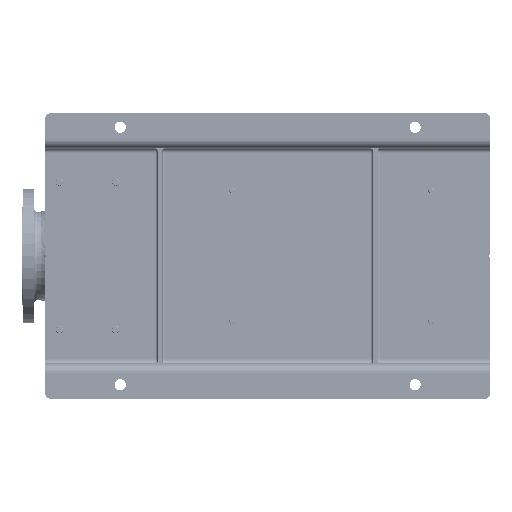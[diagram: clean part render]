
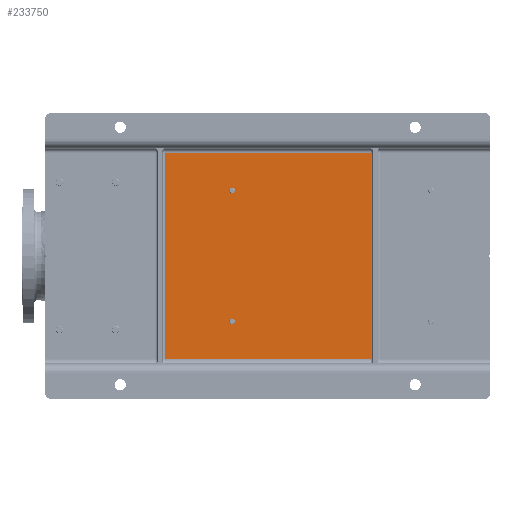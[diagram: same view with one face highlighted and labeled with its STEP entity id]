
A CAD part, front view. The second image highlights one B-rep face of the part: STEP entity #233750.
In plain terms, the highlighted planar face has unit normal (0, -1, 0).
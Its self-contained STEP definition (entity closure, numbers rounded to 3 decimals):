
#2972 = ORIENTED_EDGE ( 'NONE', *, *, #43750, .T. ) ;
#8034 = FACE_BOUND ( 'NONE', #127564, .T. ) ;
#8860 = CARTESIAN_POINT ( 'NONE',  ( 525., 65., -250. ) ) ;
#10172 = VECTOR ( 'NONE', #16210, 1000. ) ;
#12116 = DIRECTION ( 'NONE',  ( 0., 1., 0. ) ) ;
#12392 = CARTESIAN_POINT ( 'NONE',  ( 525., 65., -695. ) ) ;
#14936 = LINE ( 'NONE', #197147, #10172 ) ;
#16210 = DIRECTION ( 'NONE',  ( 0., 0., -1. ) ) ;
#21505 = DIRECTION ( 'NONE',  ( 0., 0., 1. ) ) ;
#27933 = CIRCLE ( 'NONE', #32282, 6. ) ;
#28788 = VERTEX_POINT ( 'NONE', #113455 ) ;
#29017 = CIRCLE ( 'NONE', #109140, 6. ) ;
#32282 = AXIS2_PLACEMENT_3D ( 'NONE', #70927, #171358, #210959 ) ;
#34525 = CARTESIAN_POINT ( 'NONE',  ( 444.5, 65., -399. ) ) ;
#36566 = VECTOR ( 'NONE', #126420, 1000. ) ;
#39241 = AXIS2_PLACEMENT_3D ( 'NONE', #34525, #12116, #153436 ) ;
#39789 = CARTESIAN_POINT ( 'NONE',  ( 444.5, 65., -393. ) ) ;
#43750 = EDGE_CURVE ( 'NONE', #224838, #230844, #170061, .T. ) ;
#44022 = CARTESIAN_POINT ( 'NONE',  ( 85., 65., -695. ) ) ;
#60647 = EDGE_CURVE ( 'NONE', #92920, #193915, #68257, .T. ) ;
#64755 = CARTESIAN_POINT ( 'NONE',  ( 444.5, 65., -405. ) ) ;
#66996 = CARTESIAN_POINT ( 'NONE',  ( 75., 65., -255. ) ) ;
#68257 = LINE ( 'NONE', #8860, #106333 ) ;
#68757 = PLANE ( 'NONE',  #257284 ) ;
#70927 = CARTESIAN_POINT ( 'NONE',  ( 165.5, 65., -399. ) ) ;
#72952 = EDGE_CURVE ( 'NONE', #231968, #92920, #176200, .T. ) ;
#88666 = VERTEX_POINT ( 'NONE', #117855 ) ;
#89381 = DIRECTION ( 'NONE',  ( 0., 0., 1. ) ) ;
#91926 = CARTESIAN_POINT ( 'NONE',  ( 165.5, 65., -399. ) ) ;
#92536 = AXIS2_PLACEMENT_3D ( 'NONE', #119250, #199853, #21505 ) ;
#92920 = VERTEX_POINT ( 'NONE', #12392 ) ;
#93233 = DIRECTION ( 'NONE',  ( 0., 1., 0. ) ) ;
#97159 = DIRECTION ( 'NONE',  ( 0., 0., -1. ) ) ;
#101751 = CARTESIAN_POINT ( 'NONE',  ( 525., 65., -255. ) ) ;
#106333 = VECTOR ( 'NONE', #89381, 1000. ) ;
#109140 = AXIS2_PLACEMENT_3D ( 'NONE', #91926, #93233, #97159 ) ;
#113455 = CARTESIAN_POINT ( 'NONE',  ( 165.5, 65., -405. ) ) ;
#117855 = CARTESIAN_POINT ( 'NONE',  ( 165.5, 65., -393. ) ) ;
#119250 = CARTESIAN_POINT ( 'NONE',  ( 444.5, 65., -399. ) ) ;
#126420 = DIRECTION ( 'NONE',  ( -1., 0., 0. ) ) ;
#127564 = EDGE_LOOP ( 'NONE', ( #233519, #252770 ) ) ;
#130769 = DIRECTION ( 'NONE',  ( 0., -1., 0. ) ) ;
#135747 = ORIENTED_EDGE ( 'NONE', *, *, #141844, .T. ) ;
#136396 = EDGE_LOOP ( 'NONE', ( #194731, #190081, #160399, #237183 ) ) ;
#137825 = DIRECTION ( 'NONE',  ( 1., 0., 0. ) ) ;
#141109 = EDGE_CURVE ( 'NONE', #88666, #28788, #29017, .T. ) ;
#141844 = EDGE_CURVE ( 'NONE', #230844, #224838, #252774, .T. ) ;
#153436 = DIRECTION ( 'NONE',  ( 0., 0., 1. ) ) ;
#160399 = ORIENTED_EDGE ( 'NONE', *, *, #60647, .T. ) ;
#168149 = CARTESIAN_POINT ( 'NONE',  ( 85., 65., -255. ) ) ;
#170061 = CIRCLE ( 'NONE', #39241, 6. ) ;
#171358 = DIRECTION ( 'NONE',  ( 0., 1., 0. ) ) ;
#176200 = LINE ( 'NONE', #255393, #256222 ) ;
#190081 = ORIENTED_EDGE ( 'NONE', *, *, #72952, .T. ) ;
#193915 = VERTEX_POINT ( 'NONE', #101751 ) ;
#194731 = ORIENTED_EDGE ( 'NONE', *, *, #243114, .T. ) ;
#197147 = CARTESIAN_POINT ( 'NONE',  ( 85., 65., -700. ) ) ;
#199853 = DIRECTION ( 'NONE',  ( 0., 1., 0. ) ) ;
#210921 = LINE ( 'NONE', #66996, #36566 ) ;
#210959 = DIRECTION ( 'NONE',  ( 0., 0., -1. ) ) ;
#211373 = DIRECTION ( 'NONE',  ( 0., 0., -1. ) ) ;
#221068 = VERTEX_POINT ( 'NONE', #168149 ) ;
#224838 = VERTEX_POINT ( 'NONE', #39789 ) ;
#225557 = EDGE_CURVE ( 'NONE', #28788, #88666, #27933, .T. ) ;
#229910 = CARTESIAN_POINT ( 'NONE',  ( 75., 65., -950. ) ) ;
#230844 = VERTEX_POINT ( 'NONE', #64755 ) ;
#231186 = FACE_OUTER_BOUND ( 'NONE', #136396, .T. ) ;
#231968 = VERTEX_POINT ( 'NONE', #44022 ) ;
#233519 = ORIENTED_EDGE ( 'NONE', *, *, #141109, .T. ) ;
#233750 = ADVANCED_FACE ( 'NONE', ( #8034, #249673, #231186 ), #68757, .T. ) ;
#237183 = ORIENTED_EDGE ( 'NONE', *, *, #247151, .T. ) ;
#243114 = EDGE_CURVE ( 'NONE', #221068, #231968, #14936, .T. ) ;
#247151 = EDGE_CURVE ( 'NONE', #193915, #221068, #210921, .T. ) ;
#248152 = EDGE_LOOP ( 'NONE', ( #2972, #135747 ) ) ;
#249673 = FACE_BOUND ( 'NONE', #248152, .T. ) ;
#252770 = ORIENTED_EDGE ( 'NONE', *, *, #225557, .T. ) ;
#252774 = CIRCLE ( 'NONE', #92536, 6. ) ;
#255393 = CARTESIAN_POINT ( 'NONE',  ( 75., 65., -695. ) ) ;
#256222 = VECTOR ( 'NONE', #137825, 1000. ) ;
#257284 = AXIS2_PLACEMENT_3D ( 'NONE', #229910, #130769, #211373 ) ;
